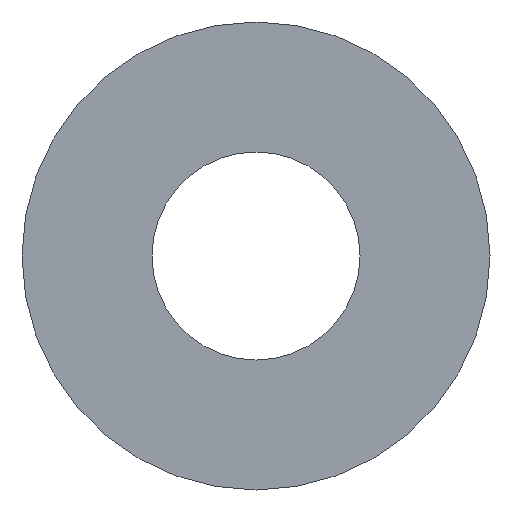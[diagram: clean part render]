
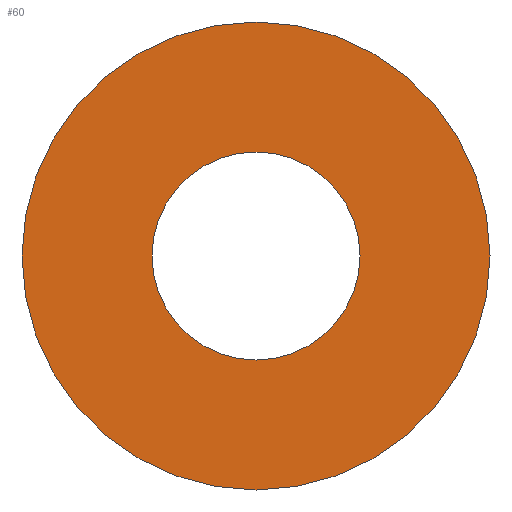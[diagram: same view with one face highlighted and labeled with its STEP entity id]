
A CAD part, left-side view. The second image highlights one B-rep face of the part: STEP entity #60.
In plain terms, the highlighted planar face has unit normal (-1, 0, 0).
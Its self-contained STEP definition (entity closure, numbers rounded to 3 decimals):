
#22=ORIENTED_EDGE('',*,*,#30,.F.);
#23=ORIENTED_EDGE('',*,*,#31,.T.);
#30=EDGE_CURVE('',#34,#34,#38,.T.);
#31=EDGE_CURVE('',#35,#35,#39,.T.);
#34=VERTEX_POINT('',#106);
#35=VERTEX_POINT('',#108);
#38=CIRCLE('',#78,9.);
#39=CIRCLE('',#79,4.);
#42=EDGE_LOOP('',(#22));
#43=EDGE_LOOP('',(#23));
#50=FACE_BOUND('',#42,.T.);
#51=FACE_BOUND('',#43,.T.);
#58=PLANE('',#77);
#60=ADVANCED_FACE('',(#50,#51),#58,.F.);
#77=AXIS2_PLACEMENT_3D('',#104,#87,#88);
#78=AXIS2_PLACEMENT_3D('',#105,#89,#90);
#79=AXIS2_PLACEMENT_3D('',#107,#91,#92);
#87=DIRECTION('',(1.,0.,0.));
#88=DIRECTION('',(0.,0.,-1.));
#89=DIRECTION('',(1.,0.,0.));
#90=DIRECTION('',(0.,0.,-1.));
#91=DIRECTION('',(1.,0.,0.));
#92=DIRECTION('',(0.,0.,-1.));
#104=CARTESIAN_POINT('',(0.,0.,0.));
#105=CARTESIAN_POINT('',(0.,0.,0.));
#106=CARTESIAN_POINT('',(0.,0.,-9.));
#107=CARTESIAN_POINT('',(0.,0.,0.));
#108=CARTESIAN_POINT('',(0.,0.,-4.));
